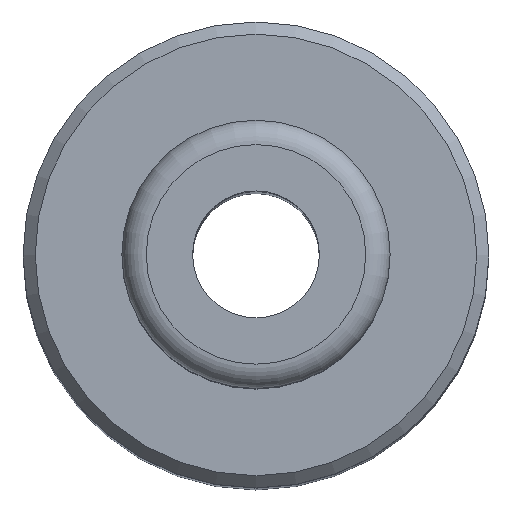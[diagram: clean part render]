
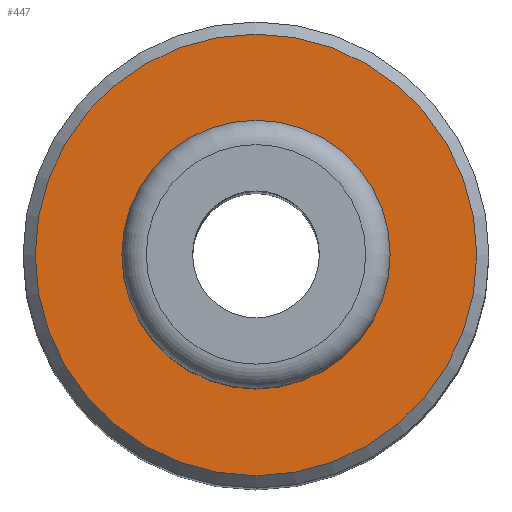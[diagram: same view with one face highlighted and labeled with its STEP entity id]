
A CAD part, top view. The second image highlights one B-rep face of the part: STEP entity #447.
In plain terms, the highlighted planar face has unit normal (0, 0, 1).
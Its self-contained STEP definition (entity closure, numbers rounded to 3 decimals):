
#392 = EDGE_CURVE('',#393,#393,#395,.T.);
#393 = VERTEX_POINT('',#394);
#394 = CARTESIAN_POINT('',(5.2,0.,99.));
#395 = CIRCLE('',#396,5.2);
#396 = AXIS2_PLACEMENT_3D('',#397,#398,#399);
#397 = CARTESIAN_POINT('',(0.,0.,99.));
#398 = DIRECTION('',(0.,0.,1.));
#399 = DIRECTION('',(1.,0.,0.));
#447 = ADVANCED_FACE('',(#448,#459),#462,.T.);
#448 = FACE_BOUND('',#449,.T.);
#449 = EDGE_LOOP('',(#450));
#450 = ORIENTED_EDGE('',*,*,#451,.T.);
#451 = EDGE_CURVE('',#452,#452,#454,.T.);
#452 = VERTEX_POINT('',#453);
#453 = CARTESIAN_POINT('',(18.1,0.,99.));
#454 = CIRCLE('',#455,18.1);
#455 = AXIS2_PLACEMENT_3D('',#456,#457,#458);
#456 = CARTESIAN_POINT('',(0.,0.,99.));
#457 = DIRECTION('',(0.,0.,1.));
#458 = DIRECTION('',(1.,0.,0.));
#459 = FACE_BOUND('',#460,.T.);
#460 = EDGE_LOOP('',(#461));
#461 = ORIENTED_EDGE('',*,*,#392,.F.);
#462 = PLANE('',#463);
#463 = AXIS2_PLACEMENT_3D('',#464,#465,#466);
#464 = CARTESIAN_POINT('',(0.,0.,99.));
#465 = DIRECTION('',(0.,0.,1.));
#466 = DIRECTION('',(1.,0.,0.));
